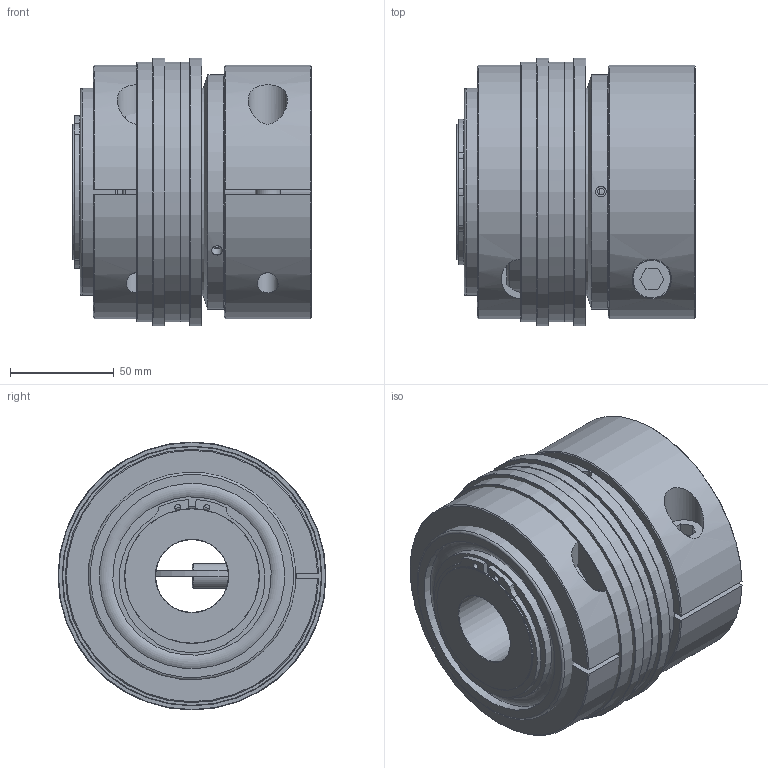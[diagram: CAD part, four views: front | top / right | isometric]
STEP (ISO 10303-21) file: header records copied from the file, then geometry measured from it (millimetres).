
FILE_DESCRIPTION( ( 'Unknown' ), '1' );
FILE_NAME( 'C:/Dokumente und Einstellungen/Sven/Desktop/hp kbk/KBK LL-K-500.stp', 'Unknown', ( 'Unknown' ), ( 'Unknown' ), 'XStep 1.0', 'Unknown', ' ' );
FILE_SCHEMA( ( 'automotive_design' ) );
Length unit declared in the file: millimetre
Products named in the file (13): Assem1; Assem2; Assem3; ball_bearing_-_6013_0_01; ball_bearing_-_6013_0_02; ball_bearing_-_6013_0_03; Zylinderschraube DIN 912_3_0; Klemmnabe 500; Stellring 500; Druckring 500; a_65; KBK LL-K-500 Grundkörper; Flansch 500
Bounding box: 115 x 129 x 129 mm (x, y, z)
Surface area: 483202 mm2
Topology: 28 solids, 28 shells, 365 faces, 766 edges, 495 vertices
Faces by surface type: cylinder 144, plane 128, cone 61, torus 32
Full cylindrical faces by diameter (mm): 3 x6, 3.242 x6, 5.1 x6, 5.2 x6, 6.647 x12, 10.106 x2, 12 x3, 12.5 x2, 18 x3, 19 x2, 35 x2, 62 x4, 65 x10, 70 x2, 76.3 x8, 86 x4, 89.1 x8, 91 x2, 100 x6, 104.5 x2, 113 x2, 114 x2, 125 x4, 129 x2
Entity records: 4428 total; most frequent: CARTESIAN_POINT 1108, DIRECTION 672, ORIENTED_EDGE 430, AXIS2_PLACEMENT_3D 311, EDGE_LOOP 276, EDGE_CURVE 215, FACE_OUTER_BOUND 203, VERTEX_POINT 183
